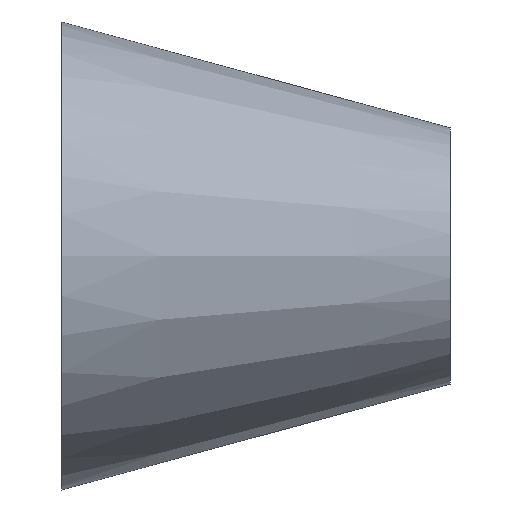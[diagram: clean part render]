
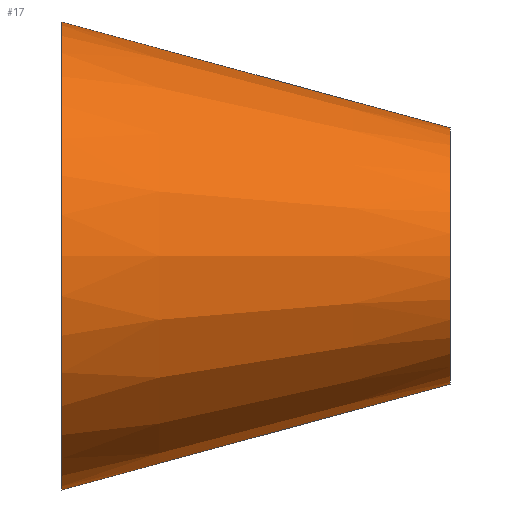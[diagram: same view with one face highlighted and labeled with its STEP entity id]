
A CAD part, top view. The second image highlights one B-rep face of the part: STEP entity #17.
In plain terms, the highlighted conical face has half-angle 15.255 degrees and reference radius 26.5 mm.
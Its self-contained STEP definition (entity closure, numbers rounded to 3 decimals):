
#17 = ADVANCED_FACE('',(#18),#31,.T.);
#18 = FACE_BOUND('',#19,.T.);
#19 = EDGE_LOOP('',(#20,#54,#74,#101));
#20 = ORIENTED_EDGE('',*,*,#21,.T.);
#21 = EDGE_CURVE('',#22,#22,#24,.T.);
#22 = VERTEX_POINT('',#23);
#23 = CARTESIAN_POINT('',(0.,26.5,0.));
#24 = SURFACE_CURVE('',#25,(#30,#42),.PCURVE_S1.);
#25 = CIRCLE('',#26,26.5);
#26 = AXIS2_PLACEMENT_3D('',#27,#28,#29);
#27 = CARTESIAN_POINT('',(0.,0.,0.));
#28 = DIRECTION('',(1.,0.,0.));
#29 = DIRECTION('',(0.,1.,0.));
#30 = PCURVE('',#31,#36);
#31 = CONICAL_SURFACE('',#32,26.5,0.266);
#32 = AXIS2_PLACEMENT_3D('',#33,#34,#35);
#33 = CARTESIAN_POINT('',(0.,0.,0.));
#34 = DIRECTION('',(-1.,-0.,-0.));
#35 = DIRECTION('',(0.,1.,0.));
#36 = DEFINITIONAL_REPRESENTATION('',(#37),#41);
#37 = LINE('',#38,#39);
#38 = CARTESIAN_POINT('',(-0.,-0.));
#39 = VECTOR('',#40,1.);
#40 = DIRECTION('',(-1.,-0.));
#41 = ( GEOMETRIC_REPRESENTATION_CONTEXT(2) 
PARAMETRIC_REPRESENTATION_CONTEXT() REPRESENTATION_CONTEXT('2D SPACE',''
  ) );
#42 = PCURVE('',#43,#48);
#43 = PLANE('',#44);
#44 = AXIS2_PLACEMENT_3D('',#45,#46,#47);
#45 = CARTESIAN_POINT('',(0.,0.,0.));
#46 = DIRECTION('',(1.,0.,0.));
#47 = DIRECTION('',(0.,1.,0.));
#48 = DEFINITIONAL_REPRESENTATION('',(#49),#53);
#49 = CIRCLE('',#50,26.5);
#50 = AXIS2_PLACEMENT_2D('',#51,#52);
#51 = CARTESIAN_POINT('',(0.,0.));
#52 = DIRECTION('',(1.,0.));
#53 = ( GEOMETRIC_REPRESENTATION_CONTEXT(2) 
PARAMETRIC_REPRESENTATION_CONTEXT() REPRESENTATION_CONTEXT('2D SPACE',''
  ) );
#54 = ORIENTED_EDGE('',*,*,#55,.T.);
#55 = EDGE_CURVE('',#22,#56,#58,.T.);
#56 = VERTEX_POINT('',#57);
#57 = CARTESIAN_POINT('',(44.,14.5,0.));
#58 = SEAM_CURVE('',#59,(#62,#68),.PCURVE_S1.);
#59 = B_SPLINE_CURVE_WITH_KNOTS('',1,(#60,#61),.UNSPECIFIED.,.F.,.F.,(2,
    2),(0.,1.),.PIECEWISE_BEZIER_KNOTS.);
#60 = CARTESIAN_POINT('',(0.,26.5,0.));
#61 = CARTESIAN_POINT('',(44.,14.5,0.));
#62 = PCURVE('',#31,#63);
#63 = DEFINITIONAL_REPRESENTATION('',(#64),#67);
#64 = B_SPLINE_CURVE_WITH_KNOTS('',1,(#65,#66),.UNSPECIFIED.,.F.,.F.,(2,
    2),(0.,1.),.PIECEWISE_BEZIER_KNOTS.);
#65 = CARTESIAN_POINT('',(-6.283,0.));
#66 = CARTESIAN_POINT('',(-6.283,-44.));
#67 = ( GEOMETRIC_REPRESENTATION_CONTEXT(2) 
PARAMETRIC_REPRESENTATION_CONTEXT() REPRESENTATION_CONTEXT('2D SPACE',''
  ) );
#68 = PCURVE('',#31,#69);
#69 = DEFINITIONAL_REPRESENTATION('',(#70),#73);
#70 = B_SPLINE_CURVE_WITH_KNOTS('',1,(#71,#72),.UNSPECIFIED.,.F.,.F.,(2,
    2),(0.,1.),.PIECEWISE_BEZIER_KNOTS.);
#71 = CARTESIAN_POINT('',(0.,0.));
#72 = CARTESIAN_POINT('',(0.,-44.));
#73 = ( GEOMETRIC_REPRESENTATION_CONTEXT(2) 
PARAMETRIC_REPRESENTATION_CONTEXT() REPRESENTATION_CONTEXT('2D SPACE',''
  ) );
#74 = ORIENTED_EDGE('',*,*,#75,.F.);
#75 = EDGE_CURVE('',#56,#56,#76,.T.);
#76 = SURFACE_CURVE('',#77,(#82,#89),.PCURVE_S1.);
#77 = CIRCLE('',#78,14.5);
#78 = AXIS2_PLACEMENT_3D('',#79,#80,#81);
#79 = CARTESIAN_POINT('',(44.,0.,0.));
#80 = DIRECTION('',(1.,0.,0.));
#81 = DIRECTION('',(0.,1.,0.));
#82 = PCURVE('',#31,#83);
#83 = DEFINITIONAL_REPRESENTATION('',(#84),#88);
#84 = LINE('',#85,#86);
#85 = CARTESIAN_POINT('',(-0.,-44.));
#86 = VECTOR('',#87,1.);
#87 = DIRECTION('',(-1.,-0.));
#88 = ( GEOMETRIC_REPRESENTATION_CONTEXT(2) 
PARAMETRIC_REPRESENTATION_CONTEXT() REPRESENTATION_CONTEXT('2D SPACE',''
  ) );
#89 = PCURVE('',#90,#95);
#90 = PLANE('',#91);
#91 = AXIS2_PLACEMENT_3D('',#92,#93,#94);
#92 = CARTESIAN_POINT('',(44.,0.,0.));
#93 = DIRECTION('',(1.,0.,0.));
#94 = DIRECTION('',(0.,1.,0.));
#95 = DEFINITIONAL_REPRESENTATION('',(#96),#100);
#96 = CIRCLE('',#97,14.5);
#97 = AXIS2_PLACEMENT_2D('',#98,#99);
#98 = CARTESIAN_POINT('',(0.,0.));
#99 = DIRECTION('',(1.,0.));
#100 = ( GEOMETRIC_REPRESENTATION_CONTEXT(2) 
PARAMETRIC_REPRESENTATION_CONTEXT() REPRESENTATION_CONTEXT('2D SPACE',''
  ) );
#101 = ORIENTED_EDGE('',*,*,#55,.F.);
